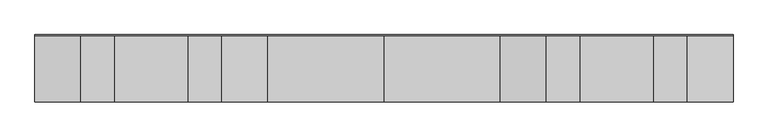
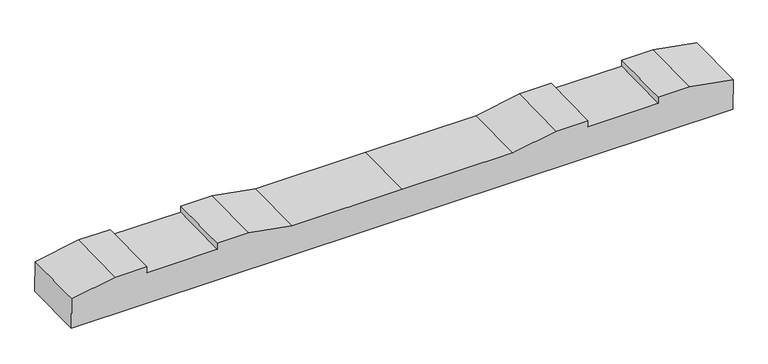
"""IFC4 building model written with IfcOpenShell, lengths in millimetres: proxy geometry, 轨枕-立面角度 : 轨枕-立面角度."""

from ifc_helpers import new_model, si_unit, frame, origin, place, context, project, spatial, polyline, outline, extrude, source, transform, mapped, element, save


def generic_models_38f69925(model_context):
    return source(origin(), model_context, "Body", "SweptSolid", [
        extrude(outline(polyline([(0.0, 0.0), (2099.7669328, 0.0), (2099.7669328, -100.0206888), (1961.8834664, -124.4999999), (1861.8834664, -124.4999999), (1861.8834664, -104.4999999), (1637.8834664, -104.4999999), (1637.8834664, -124.4999999), (1537.8834664, -124.4999999), (1399.8834664, -100.0), (1049.8834664, -100.0), (699.8834664, -100.0), (561.8834664, -124.4999999), (461.8834664, -124.4999999), (461.8834664, -104.4999999), (237.8834664, -104.4999999), (237.8834664, -124.4999999), (137.8834664, -124.4999999), (0.0, -100.0206888), (0.0, 0.0)])), frame((-1049.8834664, -98.0917855, -106.2932341), z_axis=(0.0, 0.9998361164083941, 0.018103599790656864), x_axis=(1.0, 0.0, 0.0)), (0.0, 0.0, 1.0), 200.0),
    ])


if __name__ == "__main__":
    model = new_model("IFC4")
    model_context = context("Model", 3, world=origin())
    ifc_project = project(units=[si_unit("LENGTHUNIT", "METRE", prefix="MILLI")], contexts=[model_context])
    site = spatial("IfcSite", under=ifc_project)
    building = spatial("IfcBuilding", under=site)
    placement = place(None, origin())
    generic_models_shape = generic_models_38f69925(model_context)
    element("IfcBuildingElementProxy", 1, Name="轨枕-立面角度 : 轨枕-立面角度", ObjectType="轨枕-立面角度 : 轨枕-立面角度", at=placement, inside=building, context=model_context, shape_type="MappedRepresentation", body=[
        mapped(generic_models_shape, transform((0.0, 0.0, 0.0), x_axis=(1.0, 0.0, 0.0), y_axis=(0.0, 1.0, 0.0), z_axis=(0.0, 0.0, 1.0))),
    ])
    save(model, "model.ifc")
